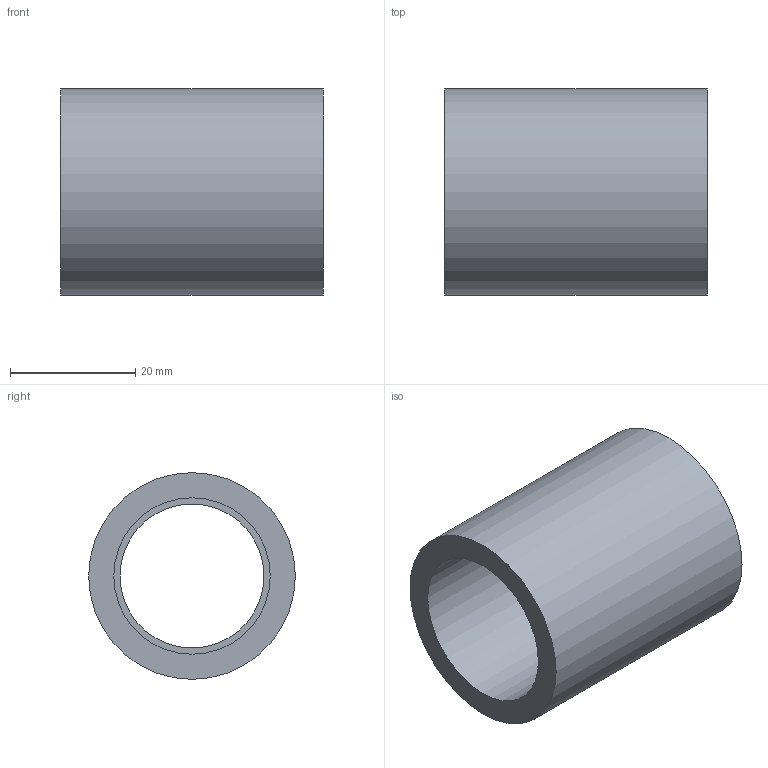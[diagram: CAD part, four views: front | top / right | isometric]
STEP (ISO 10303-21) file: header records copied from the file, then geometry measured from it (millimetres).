
FILE_DESCRIPTION(/* description */ ('PVC manicotti metrici incollaggio'),/* implementation_level */ '2;1');
FILE_NAME(/* name */ 'C:\Users\POLYPIPE\Desktop\DATASET INVENTOR\LIBRERIA EFFAST\RACCORDI 3DxWEB\RDR\3D_RDRMAD\3D_RDRMAD0250.stp',/* time_stamp */ '2018-01-19T14:38:24+01:00',/* author */ ('POLYPIPE'),/* organization */ ('Polypipe Italia s.r.l.'),/* preprocessor_version */ 'ST-DEVELOPER v16.1',/* originating_system */ 'Autodesk Inventor 2016',/* authorisation */ '');
FILE_SCHEMA (('CONFIG_CONTROL_DESIGN'));
Length unit declared in the file: millimetre
Products named in the file (1): 3D_RDRMAD
Bounding box: 42 x 33 x 33 mm (x, y, z)
Volume: 15607.4 mm3; surface area: 8507.4 mm2
Topology: 1 solids, 1 shells, 8 faces, 12 edges, 8 vertices
Faces by surface type: cylinder 4, plane 4
Full cylindrical faces by diameter (mm): 23 x1, 25 x2, 33 x1
Entity records: 192 total; most frequent: DIRECTION 34, CARTESIAN_POINT 25, AXIS2_PLACEMENT_3D 17, EDGE_LOOP 16, ORIENTED_EDGE 16, FACE_BOUND 8, FACE_OUTER_BOUND 8, CIRCLE 8
